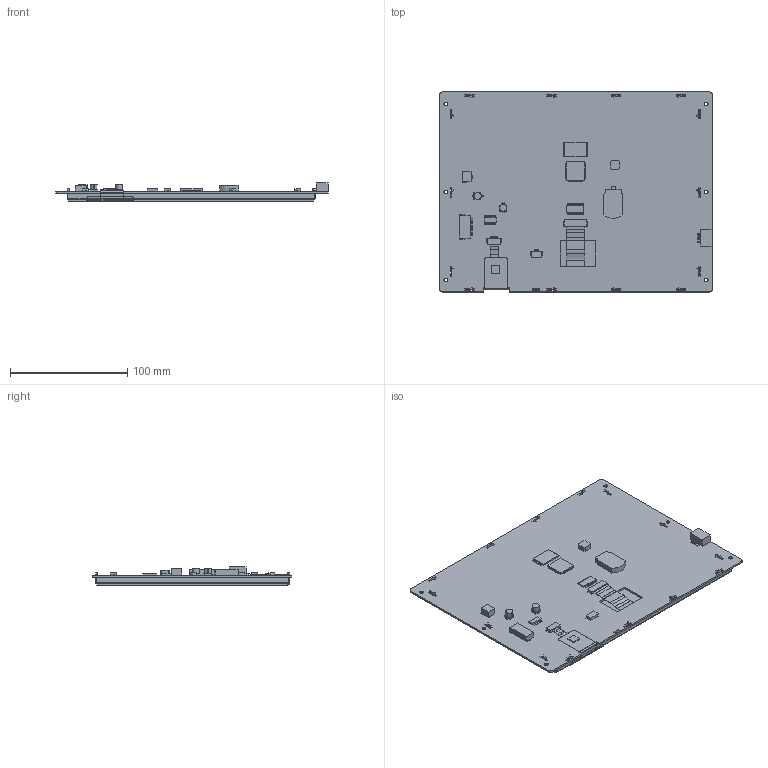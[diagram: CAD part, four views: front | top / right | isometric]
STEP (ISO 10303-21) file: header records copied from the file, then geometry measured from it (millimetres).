
FILE_DESCRIPTION(/* description */ (''),/* implementation_level */ '2;1');
FILE_NAME(/* name */ '3D_SDWe097T87C.stp',/* time_stamp */ '2020-09-30T11:59:06+08:00',/* author */ (''),/* organization */ (''),/* preprocessor_version */ 'ST-DEVELOPER v15',/* originating_system */ 'SIEMENS PLM Software NX 8.5',/* authorisation */ '');
FILE_SCHEMA (('AP203_CONFIGURATION_CONTROLLED_3D_DESIGN_OF_MECHANICAL_PARTS_AND_ASSEMBLIES_MIM_LF { 1 0 10303 403 2 1 2}'));
Products named in the file (1): SDWe097T87
Bounding box: 232.4 x 170.7 x 15.4 mm (x, y, z)
Volume: 283358.3 mm3; surface area: 265469.2 mm2
Topology: 387 solids, 387 shells, 2570 faces, 5360 edges, 3564 vertices
Faces by surface type: plane 2447, cylinder 115, extrusion 8
Full cylindrical faces by diameter (mm): 3.2 x6
Entity records: 73520 total; most frequent: CARTESIAN_POINT 11890, ORIENTED_EDGE 10700, DIRECTION 10627, EDGE_CURVE 5350, VECTOR 5097, LINE 5089, VERTEX_POINT 3564, AXIS2_PLACEMENT_3D 2765
